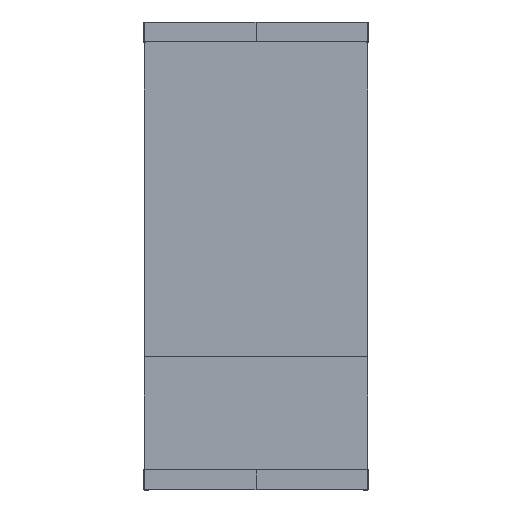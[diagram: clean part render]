
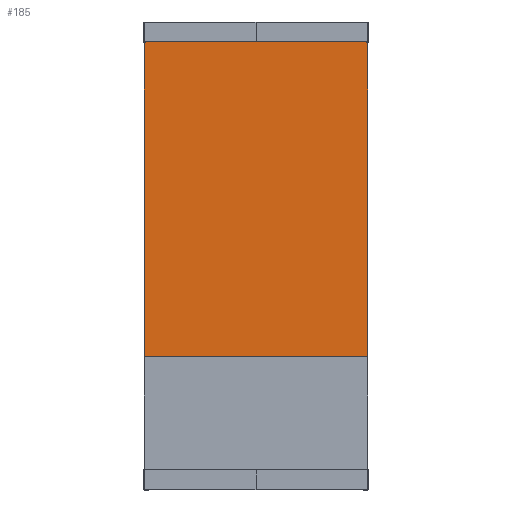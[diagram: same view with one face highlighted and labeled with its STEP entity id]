
A CAD part, top view. The second image highlights one B-rep face of the part: STEP entity #185.
In plain terms, the highlighted planar face has unit normal (0, 0, 1).
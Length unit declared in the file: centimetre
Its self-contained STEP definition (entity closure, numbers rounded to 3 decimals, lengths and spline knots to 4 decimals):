
#185=ADVANCED_FACE($,(#345),#2019,.T.);
#345=FACE_OUTER_BOUND($,#513,.T.);
#513=EDGE_LOOP($,(#1170,#1171,#1172,#1173));
#1170=ORIENTED_EDGE($,*,*,#1584,.F.);
#1171=ORIENTED_EDGE($,*,*,#1585,.F.);
#1172=ORIENTED_EDGE($,*,*,#1589,.F.);
#1173=ORIENTED_EDGE($,*,*,#1581,.F.);
#1581=EDGE_CURVE($,#1843,#1842,#2351,.T.);
#1584=EDGE_CURVE($,#1846,#1843,#2354,.T.);
#1585=EDGE_CURVE($,#1847,#1846,#2355,.T.);
#1589=EDGE_CURVE($,#1842,#1847,#2359,.T.);
#1842=VERTEX_POINT($,#3926);
#1843=VERTEX_POINT($,#3927);
#1846=VERTEX_POINT($,#3930);
#1847=VERTEX_POINT($,#3931);
#2019=PLANE($,#2635);
#2351=B_SPLINE_CURVE_WITH_KNOTS($,3,(#3898,#3899,#3900,#3901),.UNSPECIFIED.,
.F.,.F.,(4,4),(0.,78.9),.UNSPECIFIED.);
#2354=B_SPLINE_CURVE_WITH_KNOTS($,1,(#3906,#3907),.UNSPECIFIED.,.F.,.F.,
(2,2),(0.,111.),.UNSPECIFIED.);
#2355=B_SPLINE_CURVE_WITH_KNOTS($,1,(#3908,#3909),.UNSPECIFIED.,.F.,.F.,
(2,2),(0.,78.9),.UNSPECIFIED.);
#2359=B_SPLINE_CURVE_WITH_KNOTS($,1,(#3916,#3917),.UNSPECIFIED.,.F.,.F.,
(2,2),(15.,126.),.UNSPECIFIED.);
#2635=AXIS2_PLACEMENT_3D($,#3923,#2798,$);
#2798=DIRECTION($,(0.,0.,1.));
#3898=CARTESIAN_POINT($,(225.55,-132.,74.51));
#3899=CARTESIAN_POINT($,(251.85,-132.,74.51));
#3900=CARTESIAN_POINT($,(278.15,-132.,74.51));
#3901=CARTESIAN_POINT($,(304.45,-132.,74.51));
#3906=CARTESIAN_POINT($,(225.55,-243.,74.51));
#3907=CARTESIAN_POINT($,(225.55,-132.,74.51));
#3908=CARTESIAN_POINT($,(304.45,-243.,74.51));
#3909=CARTESIAN_POINT($,(225.55,-243.,74.51));
#3916=CARTESIAN_POINT($,(304.45,-132.,74.51));
#3917=CARTESIAN_POINT($,(304.45,-243.,74.51));
#3923=CARTESIAN_POINT($,(225.55,-243.,74.51));
#3926=CARTESIAN_POINT($,(304.45,-132.,74.51));
#3927=CARTESIAN_POINT($,(225.55,-132.,74.51));
#3930=CARTESIAN_POINT($,(225.55,-243.,74.51));
#3931=CARTESIAN_POINT($,(304.45,-243.,74.51));
